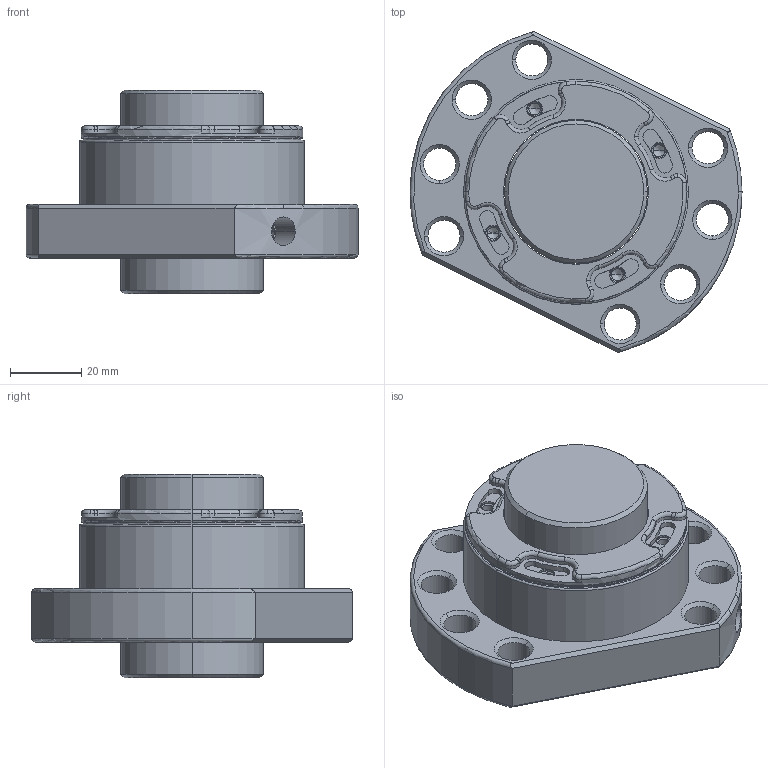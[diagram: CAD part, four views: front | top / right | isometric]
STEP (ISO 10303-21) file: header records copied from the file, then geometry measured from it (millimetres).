
FILE_DESCRIPTION (( 'STEP AP203' ), '1' );
FILE_NAME ('SFSR04005C1D-C.STEP', '2020-06-17T01:11:12', ( '' ), ( '' ), 'SwSTEP 2.0', 'SolidWorks 2013', '' );
FILE_SCHEMA (( 'CONFIG_CONTROL_DESIGN' ));
Length unit declared in the file: millimetre
Products named in the file (1): SFSR04005C1D-C
Bounding box: 93 x 89.97 x 57 mm (x, y, z)
Volume: 163423.1 mm3; surface area: 37405.3 mm2
Topology: 2 solids, 2 shells, 413 faces, 1019 edges, 620 vertices
Faces by surface type: cylinder 185, plane 84, torus 76, cone 68
Entity records: 14372 total; most frequent: CARTESIAN_POINT 4224, DIRECTION 2353, ORIENTED_EDGE 2006, AXIS2_PLACEMENT_3D 1017, EDGE_CURVE 1003, VERTEX_POINT 620, CIRCLE 603, EDGE_LOOP 459
